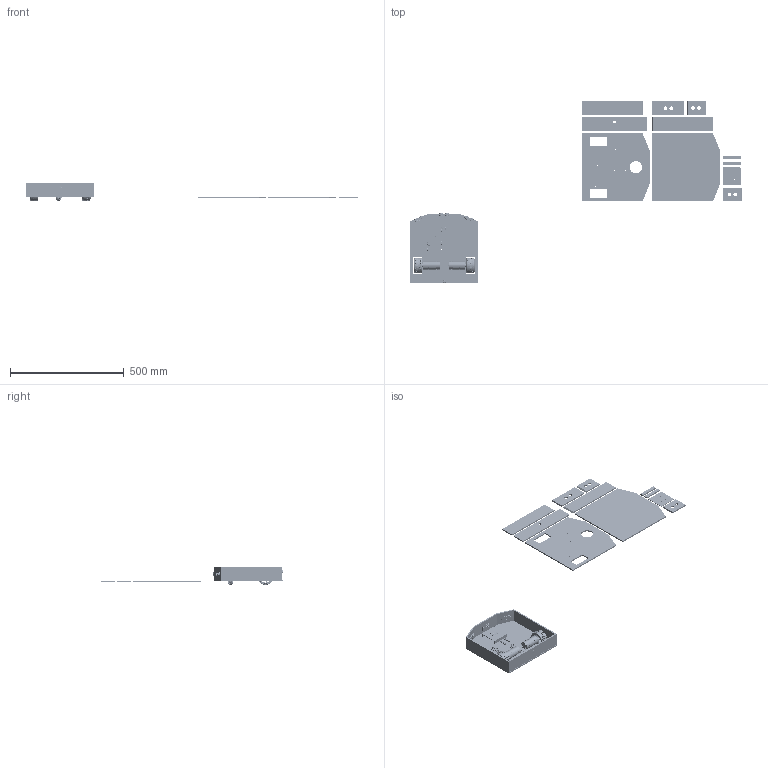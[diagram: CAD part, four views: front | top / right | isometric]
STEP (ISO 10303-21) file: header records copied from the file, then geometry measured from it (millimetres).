
FILE_DESCRIPTION(/* description */ (''),/* implementation_level */ '2;1');
FILE_NAME(/* name */ 'AMR.step',/* time_stamp */ '2026-11-22T19:13:07+01:00',/* author */ (''),/* organization */ (''),/* preprocessor_version */ 'ST-DEVELOPER v20.2',/* originating_system */ 'Autodesk Translation Framework v15.17.0.0',/* authorisation */ '');
FILE_SCHEMA (('AUTOMOTIVE_DESIGN { 1 0 10303 214 3 1 1 }'));
Products named in the file (214): 2026-07-01-11-43-03-972; 2026-07-13-20-36-04-798; 2026-07-13-20-36-04-799; 2026-07-13-20-36-04-800; 2026-07-13-20-36-04-801; 2026-07-13-20-36-04-802; 2026-07-13-20-36-04-803; 2026-07-13-20-36-04-804; 2026-07-01-12-44-58-020; 2026-07-17-18-18-00-734; 2026-07-01-12-44-58-020_1; 2026-07-01-12-44-58-021; 2026-07-01-12-44-58-022; 2026-07-01-12-44-58-023; 2026-07-01-12-44-58-024; 2026-07-01-12-44-58-025; 2026-07-01-12-44-58-026; 2026-07-01-12-44-58-027; 2026-07-01-12-44-58-028; 2026-07-01-12-44-58-029; 2026-07-01-12-44-58-030; 2026-07-01-12-44-58-031; 2026-07-10-19-32-11-129; 2026-07-18-22-49-07-244; 2026-07-18-22-49-07-245; 2026-07-19-15-38-24-902; 2026-07-19-15-38-24-902_1; 2026-07-19-15-38-24-902_2; 2026-07-19-15-38-24-903; 2026-07-19-15-38-24-906; 2026-07-19-15-38-24-908; 2026-07-19-15-38-24-911; 2026-07-19-15-38-24-914; 2026-07-19-15-38-24-915; 2026-07-19-15-38-24-916; 2026-07-19-15-38-24-917; 2026-07-19-15-38-24-918; 2026-07-19-15-38-24-905; 2026-07-19-15-38-24-907; 2026-07-19-15-38-24-909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
Assembly tree (388 placements, depth 5):
  2026-07-01-11-43-03-972
    2026-07-10-19-32-11-129  x2
    2026-07-13-20-36-04-798
      2026-07-13-20-36-04-799
      2026-07-13-20-36-04-800
      2026-07-13-20-36-04-801
      2026-07-13-20-36-04-802
      2026-07-13-20-36-04-803
      2026-07-13-20-36-04-804
    2026-07-01-12-44-58-020
      2026-07-01-12-44-58-021
      2026-07-01-12-44-58-022
      2026-07-01-12-44-58-023
      2026-07-01-12-44-58-024
      2026-07-01-12-44-58-025
      2026-07-01-12-44-58-026
      2026-07-01-12-44-58-027
      2026-07-01-12-44-58-028
      2026-07-01-12-44-58-029
      2026-07-01-12-44-58-030
      2026-07-01-12-44-58-031
    2026-07-17-18-18-00-734  x2
    2026-07-01-12-44-58-020_1
      2026-07-01-12-44-58-021
      2026-07-01-12-44-58-022
      2026-07-01-12-44-58-023
      2026-07-01-12-44-58-024
      2026-07-01-12-44-58-025
      2026-07-01-12-44-58-026
      2026-07-01-12-44-58-027
      2026-07-01-12-44-58-028
      2026-07-01-12-44-58-029
      2026-07-01-12-44-58-030
      2026-07-01-12-44-58-031
    2026-07-18-22-49-07-244
      2026-07-18-22-49-07-245
    2026-07-19-15-38-24-902
      2026-07-19-15-38-24-903
      2026-07-19-15-38-24-904  x10
      2026-07-19-15-38-24-905  x2
      2026-07-19-15-38-24-906
      2026-07-19-15-38-24-907  x2
      2026-07-19-15-38-24-908
      2026-07-19-15-38-24-909  x7
      2026-07-19-15-38-24-910  x3
      2026-07-19-15-38-24-911
      2026-07-19-15-38-24-912  x6
      2026-07-19-15-38-24-913  x2
      2026-07-19-15-38-24-914
      2026-07-19-15-38-24-915
      2026-07-19-15-38-24-916
      2026-07-19-15-38-24-917
      2026-07-19-15-38-24-918
      2026-07-19-15-38-24-919  x4
    2026-07-19-15-38-24-902_1
      2026-07-19-15-38-24-903
      2026-07-19-15-38-24-904  x10
      2026-07-19-15-38-24-905  x2
      2026-07-19-15-38-24-906
      2026-07-19-15-38-24-907  x2
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Bounding box: 1461.37 x 797.88 x 78.21 mm (x, y, z)
Volume: 2562150 mm3; surface area: 1099284.9 mm2
Topology: 1052 solids, 1120 shells, 35857 faces, 91665 edges, 58429 vertices
Faces by surface type: plane 21352, cylinder 7641, bspline 3609, cone 2203, torus 656, sphere 396
Full cylindrical faces by diameter (mm): 0.5 x11, 0.55 x3, 0.6 x1, 0.68 x84, 0.687 x6, 0.75 x4, 0.783 x30, 0.8 x42, 0.9 x30, 1 x50, 1.2 x11, 1.4 x64, 1.5 x18, 1.625 x1, 1.64 x16, 1.778 x2, 1.95 x12, 2 x33, 2.19 x1, 2.54 x16, 2.708 x1, 3 x21, 3.1 x12, 3.4 x24, 3.5 x4, 4 x10, 4.2 x12, 4.5 x8, 4.6 x1, 5 x4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
Entity records: 548918 total; most frequent: CARTESIAN_POINT 158022, ORIENTED_EDGE 79050, DIRECTION 76257, EDGE_CURVE 39525, LINE 26283, VECTOR 26283, VERTEX_POINT 25204, AXIS2_PLACEMENT_3D 24987
